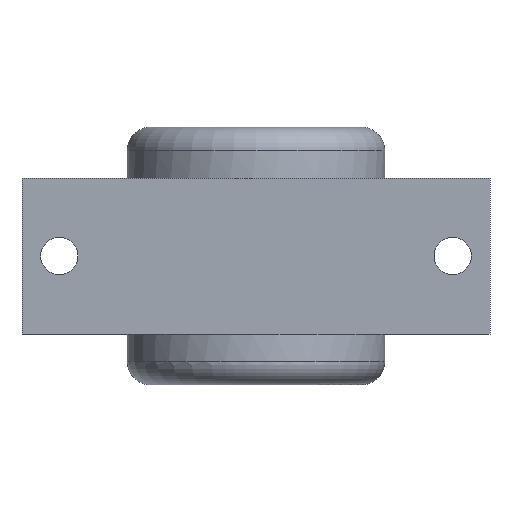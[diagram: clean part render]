
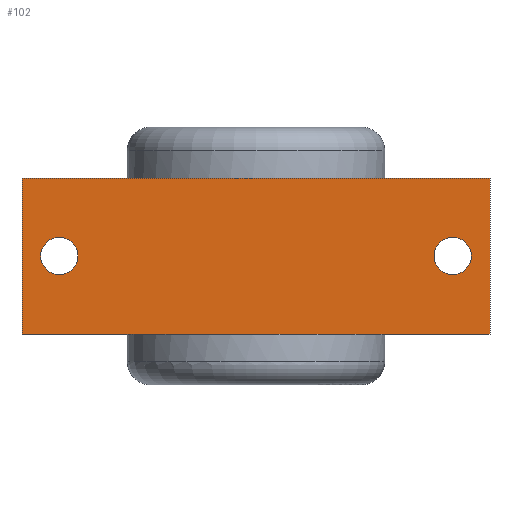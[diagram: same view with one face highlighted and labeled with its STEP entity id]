
A CAD part, front view. The second image highlights one B-rep face of the part: STEP entity #102.
In plain terms, the highlighted planar face has unit normal (0, -1, 0).
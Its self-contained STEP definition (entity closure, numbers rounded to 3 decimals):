
#102=ADVANCED_FACE('',(#204,#205,#206),#207,.T.);
#204=FACE_BOUND('',#348,.T.);
#205=FACE_OUTER_BOUND('',#349,.T.);
#206=FACE_BOUND('',#350,.T.);
#207=PLANE('',#351);
#348=EDGE_LOOP('',(#628));
#349=EDGE_LOOP('',(#629,#630,#631,#632));
#350=EDGE_LOOP('',(#633));
#351=AXIS2_PLACEMENT_3D('',#634,#635,#636);
#628=ORIENTED_EDGE('',*,*,#980,.T.);
#629=ORIENTED_EDGE('',*,*,#982,.F.);
#630=ORIENTED_EDGE('',*,*,#983,.F.);
#631=ORIENTED_EDGE('',*,*,#984,.T.);
#632=ORIENTED_EDGE('',*,*,#985,.T.);
#633=ORIENTED_EDGE('',*,*,#979,.T.);
#634=CARTESIAN_POINT('',(34.5,0.,11.5));
#635=DIRECTION('',(0.0,-1.0,0.0));
#636=DIRECTION('',(1.0,0.0,0.0));
#979=EDGE_CURVE('',#1187,#1187,#1188,.F.);
#980=EDGE_CURVE('',#1189,#1189,#1190,.F.);
#982=EDGE_CURVE('',#1193,#1194,#1195,.T.);
#983=EDGE_CURVE('',#1196,#1193,#1197,.T.);
#984=EDGE_CURVE('',#1196,#1198,#1199,.T.);
#985=EDGE_CURVE('',#1198,#1194,#1200,.T.);
#1187=VERTEX_POINT('',#1491);
#1188=CIRCLE('',#1492,2.75);
#1189=VERTEX_POINT('',#1493);
#1190=CIRCLE('',#1494,2.75);
#1193=VERTEX_POINT('',#1497);
#1194=VERTEX_POINT('',#1498);
#1195=LINE('',#1499,#1500);
#1196=VERTEX_POINT('',#1501);
#1197=LINE('',#1502,#1503);
#1198=VERTEX_POINT('',#1504);
#1199=LINE('',#1505,#1506);
#1200=LINE('',#1507,#1508);
#1491=CARTESIAN_POINT('',(29.0,0.0,-2.75));
#1492=AXIS2_PLACEMENT_3D('',#1797,#1798,#1799);
#1493=CARTESIAN_POINT('',(-29.0,0.0,-2.75));
#1494=AXIS2_PLACEMENT_3D('',#1800,#1801,#1802);
#1497=CARTESIAN_POINT('',(34.5,0.,-11.5));
#1498=CARTESIAN_POINT('',(-34.5,0.0,-11.5));
#1499=CARTESIAN_POINT('',(34.5,0.,-11.5));
#1500=VECTOR('',#1806,1.0);
#1501=CARTESIAN_POINT('',(34.5,0.,11.5));
#1502=CARTESIAN_POINT('',(34.5,0.,11.5));
#1503=VECTOR('',#1807,1.0);
#1504=CARTESIAN_POINT('',(-34.5,0.0,11.5));
#1505=CARTESIAN_POINT('',(34.5,0.,11.5));
#1506=VECTOR('',#1808,1.0);
#1507=CARTESIAN_POINT('',(-34.5,0.0,11.5));
#1508=VECTOR('',#1809,1.0);
#1797=CARTESIAN_POINT('',(29.0,0.0,0.0));
#1798=DIRECTION('',(0.0,-1.0,0.0));
#1799=DIRECTION('',(0.0,0.0,-1.0));
#1800=CARTESIAN_POINT('',(-29.0,0.0,0.0));
#1801=DIRECTION('',(0.0,-1.0,0.0));
#1802=DIRECTION('',(0.0,0.0,-1.0));
#1806=DIRECTION('',(-1.0,0.0,0.0));
#1807=DIRECTION('',(0.0,0.0,-1.0));
#1808=DIRECTION('',(-1.0,0.0,0.0));
#1809=DIRECTION('',(0.0,0.0,-1.0));
